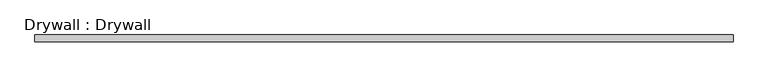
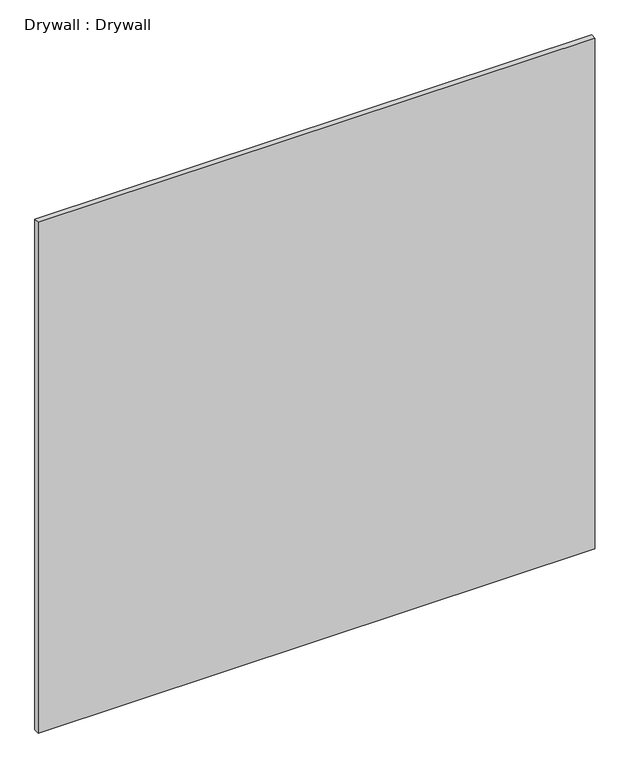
"""IFC4 building model written with IfcOpenShell, lengths in millimetres: proxy geometry, Drywall : Drywall."""

from ifc_helpers import new_model, si_unit, origin, origin_with_axes, place, context, project, spatial, polyline, outline, extrude, source, transform, mapped, element, save


def drywall_drywall_9ad1a81a(model_context):
    return source(origin(), model_context, "Body", "SweptSolid", [
        extrude(outline(polyline([(884.847143, 4269.0765644), (2142.147143, 4269.0765644), (2142.147143, 4256.3765644), (884.847143, 4256.3765644), (884.847143, 4269.0765644)])), origin_with_axes(), (0.0, 0.0, 1.0), 1219.2),
    ])


if __name__ == "__main__":
    model = new_model("IFC4")
    model_context = context("Model", 3, world=origin())
    ifc_project = project(units=[si_unit("LENGTHUNIT", "METRE", prefix="MILLI")], contexts=[model_context])
    site = spatial("IfcSite", under=ifc_project)
    building = spatial("IfcBuilding", under=site)
    placement = place(None, origin())
    drywall_drywall_shape = drywall_drywall_9ad1a81a(model_context)
    element("IfcBuildingElementProxy", 1, Name="Drywall : Drywall", ObjectType="Drywall : Drywall", at=placement, inside=building, context=model_context, shape_type="MappedRepresentation", body=[
        mapped(drywall_drywall_shape, transform((0.0, 0.0, 0.0), x_axis=(1.0, 0.0, 0.0), y_axis=(0.0, 1.0, 0.0), z_axis=(0.0, 0.0, 1.0))),
    ])
    save(model, "model.ifc")
